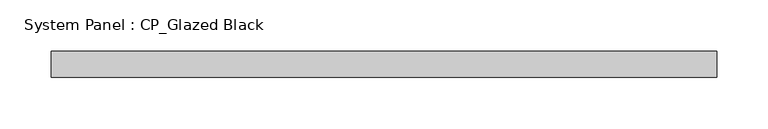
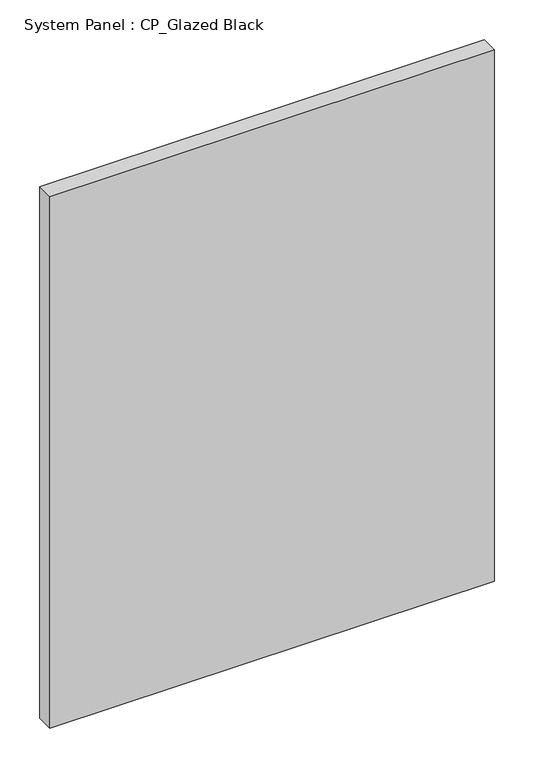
"""IFC4 building model written with IfcOpenShell, lengths in millimetres: plate geometry, System Panel : CP_Glazed Black."""

from ifc_helpers import new_model, si_unit, origin, origin_with_axes, place, context, project, spatial, polyline, outline, extrude, source, transform, mapped, element, save


def system_panel_cp_glazed_black_498dc2d0(model_context):
    return source(origin(), model_context, "Body", "SweptSolid", [
        extrude(outline(polyline([(323.85, 19.05), (-323.85, 19.05), (-323.85, 44.45), (323.85, 44.45), (323.85, 19.05)])), origin_with_axes(), (0.0, 0.0, 1.0), 819.15),
    ])


if __name__ == "__main__":
    model = new_model("IFC4")
    model_context = context("Model", 3, world=origin())
    ifc_project = project(units=[si_unit("LENGTHUNIT", "METRE", prefix="MILLI")], contexts=[model_context])
    site = spatial("IfcSite", under=ifc_project)
    building = spatial("IfcBuilding", under=site)
    placement = place(None, origin())
    system_panel_cp_glazed_black_shape = system_panel_cp_glazed_black_498dc2d0(model_context)
    element("IfcPlate", 1, ObjectType="System Panel : CP_Glazed Black", at=placement, inside=building, context=model_context, shape_type="MappedRepresentation", body=[
        mapped(system_panel_cp_glazed_black_shape, transform((0.0, 0.0, 0.0), x_axis=(1.0, 0.0, 0.0), y_axis=(0.0, 1.0, 0.0), z_axis=(0.0, 0.0, 1.0))),
    ])
    save(model, "model.ifc")
